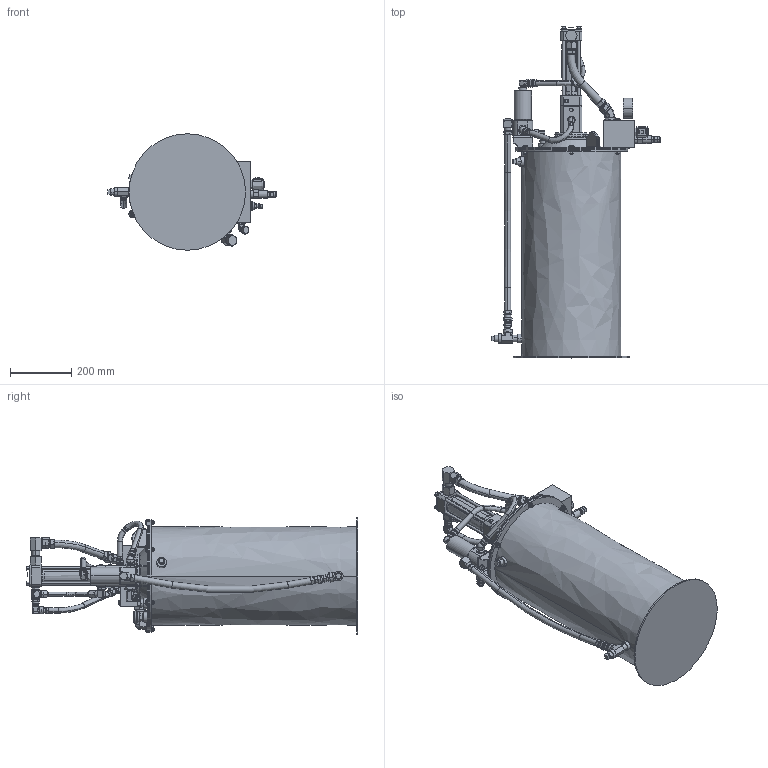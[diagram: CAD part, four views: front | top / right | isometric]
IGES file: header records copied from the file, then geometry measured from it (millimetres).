
Start section:  PTC IGES file: 243159-en-s.igs
Global section: file name: 243159-en-s.igs; native system: Creo Parametric by PTC Inc.; preprocessor: 2021072; author: qtmwp1; organization: Unknown; date: 20220214.111029; units: inch
Bounding box: 551.58 x 1086.59 x 381 mm (x, y, z)
Surface area: 1860589 mm2 (no closed solid volume)
Topology: 0 solids, 0 shells, 1666 faces, 7963 edges, 7958 vertices
Faces by surface type: revolution 1021, bspline 645
